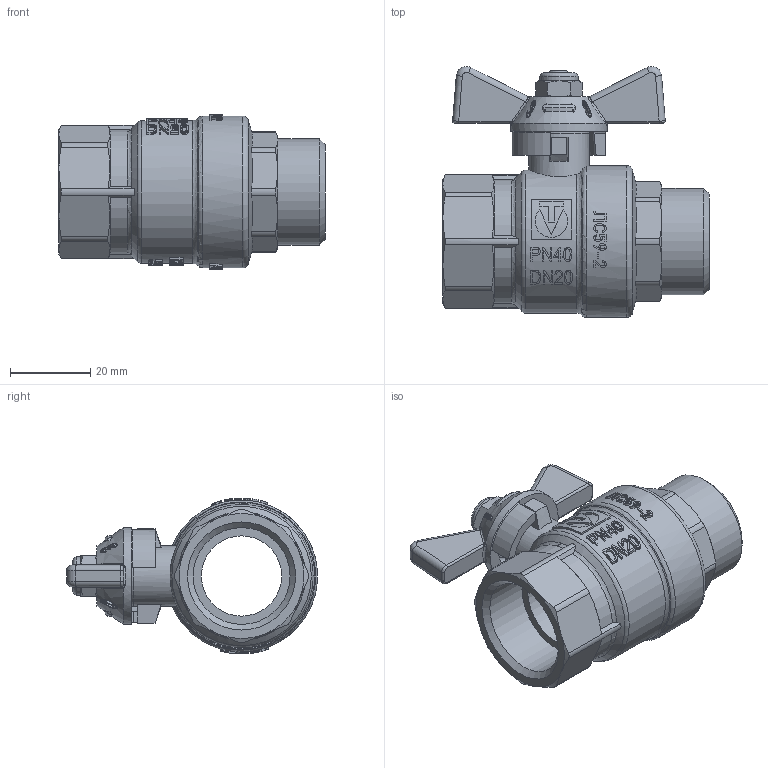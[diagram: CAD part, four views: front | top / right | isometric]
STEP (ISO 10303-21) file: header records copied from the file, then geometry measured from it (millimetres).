
FILE_DESCRIPTION(('STEP AP203'), '1');
FILE_NAME('VT.218S.N.05', '', ('UNSPECIFIED'), ('UNSPECIFIED'), 'C3D Converter', 'C3D Toolkit', '');
FILE_SCHEMA(('CONFIG_CONTROL_DESIGN'));
Length unit declared in the file: millimetre
Products named in the file (1): ВР.491816.013.000 СБ
Bounding box: 66.3 x 62.48 x 38.8 mm (x, y, z)
Volume: 40378.4 mm3; surface area: 16544.4 mm2
Topology: 1 solids, 1 shells, 1740 faces, 4942 edges, 3258 vertices
Faces by surface type: plane 1410, cylinder 114, extrusion 108, cone 61, bspline 28, torus 19
Full cylindrical faces by diameter (mm): 6 x1, 8 x1, 9.5 x1, 10.5 x1, 12 x1, 15 x1, 20 x1, 24 x1, 24.118 x1, 26.441 x1, 35.6 x1, 37.8 x1
Entity records: 64360 total; most frequent: CARTESIAN_POINT 26588, ORIENTED_EDGE 9796, DIRECTION 5900, EDGE_CURVE 4898, VERTEX_POINT 3251, AXIS2_PLACEMENT_3D 1990, VECTOR 1920, EDGE_LOOP 1831
